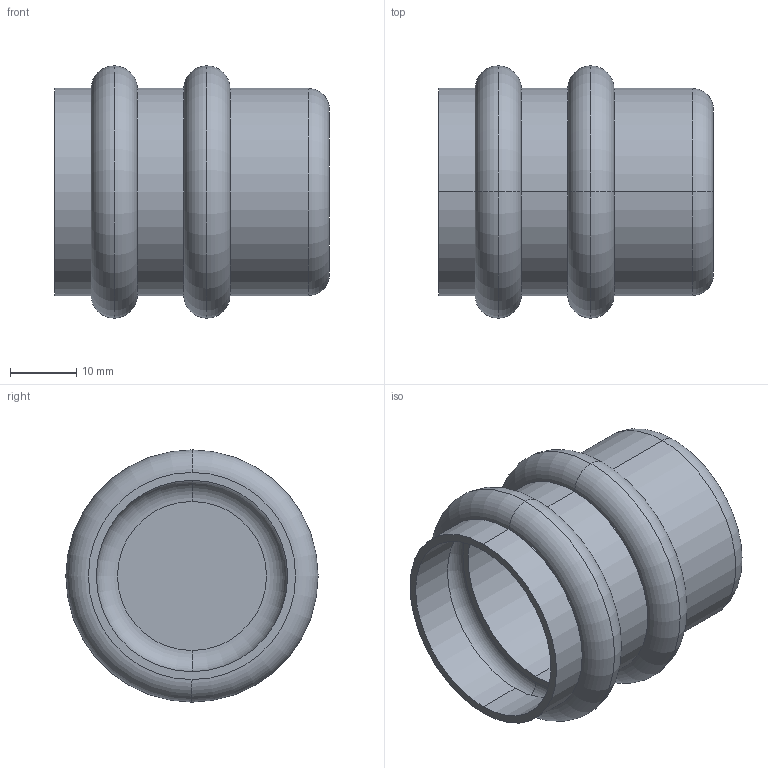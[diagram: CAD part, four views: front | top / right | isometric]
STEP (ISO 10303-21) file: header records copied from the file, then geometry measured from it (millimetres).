
FILE_DESCRIPTION(('starvars output'),'1');
FILE_NAME('cv20240422105114000011528.stp','10:51:14 2024/04/22',('Thomas Industrial Network Germany GmbH'),(' '),'Spatial InterOp 3D',' ',' ');
FILE_SCHEMA(('AUTOMOTIVE_DESIGN { 1 0 10303 214 3 1 1 }'));
Length unit declared in the file: millimetre
Products named in the file (1): 1
Bounding box: 41.5 x 38.1 x 38.1 mm (x, y, z)
Volume: 7040.1 mm3; surface area: 11207.5 mm2
Topology: 1 solids, 1 shells, 43 faces, 84 edges, 52 vertices
Faces by surface type: torus 20, cylinder 12, plane 11
Entity records: 1502 total; most frequent: DIRECTION 244, CARTESIAN_POINT 180, ORIENTED_EDGE 168, AXIS2_PLACEMENT_3D 116, EDGE_CURVE 84, CIRCLE 72, EDGE_LOOP 52, VERTEX_POINT 52
